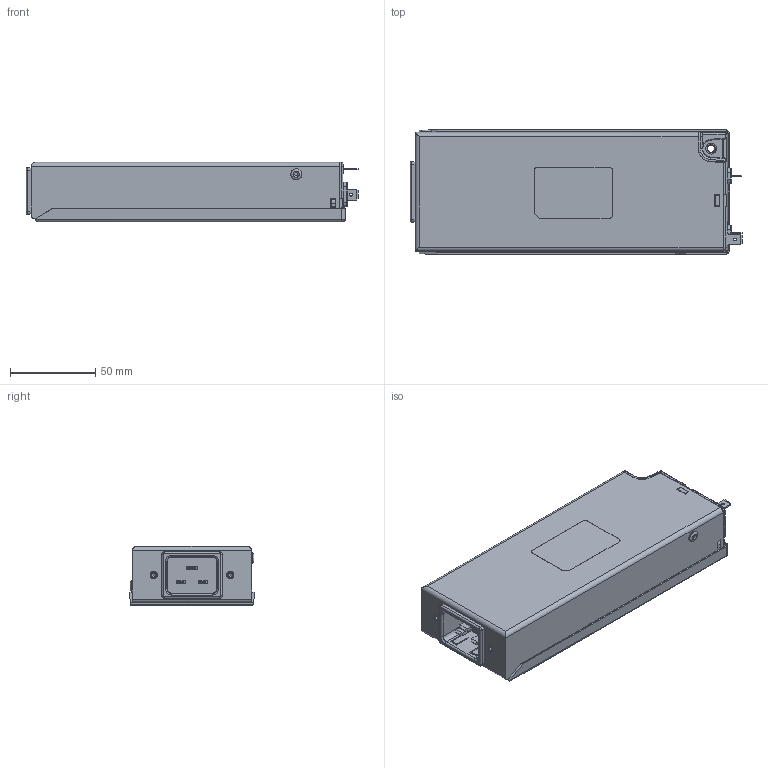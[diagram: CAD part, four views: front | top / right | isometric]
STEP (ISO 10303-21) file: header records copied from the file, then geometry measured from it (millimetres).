
FILE_DESCRIPTION(/* description */ (''),/* implementation_level */ '2;1');
FILE_NAME(/* name */ 'C:\Users\Christian.Ackermann\OneDrive - Schaffner EMV AG\Desktop\UMA_customerSTEP\FN266x-16_20-05.stp',/* time_stamp */ '2021-11-30T11:45:20+01:00',/* author */ ('Christian.Ackermann'),/* organization */ (''),/* preprocessor_version */ 'ST-DEVELOPER v18.1',/* originating_system */ 'Autodesk Inventor 2020',/* authorisation */ '');
FILE_SCHEMA (('AUTOMOTIVE_DESIGN { 1 0 10303 214 3 1 1 }'));
Length unit declared in the file: millimetre
Products named in the file (1): FN266x-16_20-05
Bounding box: 195.1 x 73 x 35.06 mm (x, y, z)
Volume: 428554.4 mm3; surface area: 82923 mm2
Topology: 1 solids, 1 shells, 1105 faces, 2902 edges, 1807 vertices
Faces by surface type: plane 613, cylinder 292, bspline 71, torus 60, cone 55, sphere 14
Full cylindrical faces by diameter (mm): 1.65 x3, 2 x2, 2.459 x2, 4.2 x1, 4.25 x2, 6.4 x1, 6.5 x2, 8.39 x2, 8.74 x3
Entity records: 37018 total; most frequent: CARTESIAN_POINT 8237, ORIENTED_EDGE 5778, DIRECTION 5741, EDGE_CURVE 2889, LINE 1935, VECTOR 1935, AXIS2_PLACEMENT_3D 1903, VERTEX_POINT 1807
